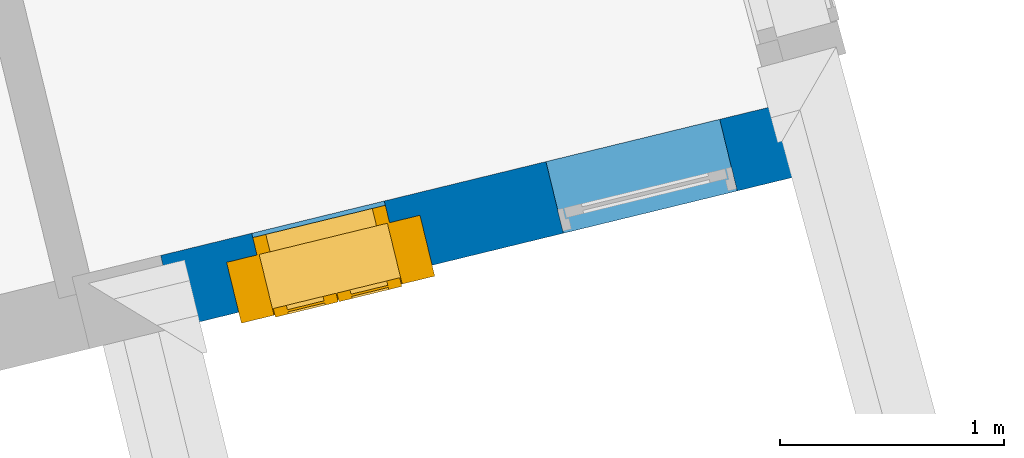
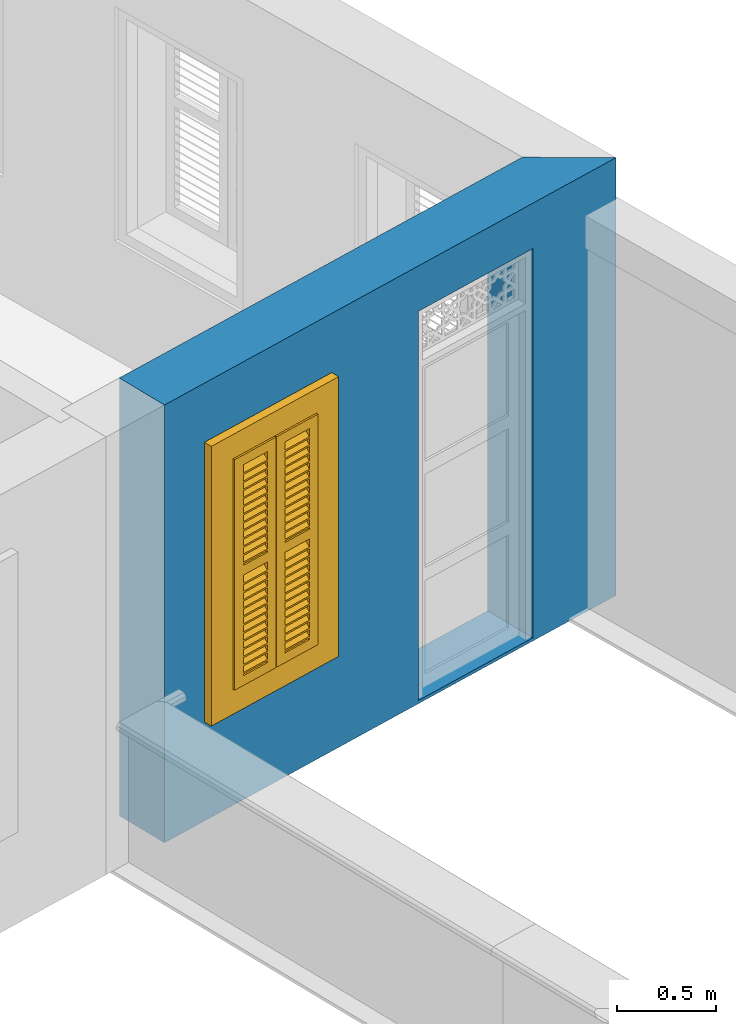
# One storey, part 6 of 9: 1 wall, 1 window, 2 openings.
"""IFC4 building model written with IfcOpenShell, lengths in metres."""

from ifc_helpers import new_model, si_unit, frame, origin, origin_with_axes, place, context, subcontext, project, spatial, polyline, outline, extrude, faceted_brep, source, transform, mapped, material, layer, layer_set, layer_usage, type_object, type_shapes, element, fill, save


model = new_model("IFC4")

# Units and contexts
model_context = context("Model", 3, world=origin_with_axes())
body_context = subcontext(model_context, "Body", "Model", "MODEL_VIEW")
ifc_project = project(units=[si_unit("PLANEANGLEUNIT", "RADIAN"), si_unit("MASSUNIT", "GRAM", prefix="KILO"), si_unit("FORCEUNIT", "NEWTON", prefix="KILO"), si_unit("LENGTHUNIT", "METRE"), si_unit("AREAUNIT", "SQUARE_METRE"), si_unit("VOLUMEUNIT", "CUBIC_METRE")], contexts=[model_context, model_context])

# Site, building, storey
site_placement = place(None, origin_with_axes())
site = spatial("IfcSite", under=ifc_project, at=site_placement, Name="Site plot-4", CompositionType="ELEMENT")
building_placement = place(None, origin_with_axes())
building = spatial("IfcBuilding", under=site, at=building_placement, Name="Building plot-4", CompositionType="ELEMENT")
storey_placement = place(None, frame((0.0, 0.0, 2.7), z_axis=(0.0, 0.0, 1.0), x_axis=(1.0, 0.0, 0.0)))
storey = spatial("IfcBuildingStorey", under=building, at=storey_placement, Name="plot-4 1", CompositionType="ELEMENT", Elevation=2.7)

# Wall, openings, window
ifc_material = material(Name="Masonry")
ifc_layer = layer(ifc_material, 0.33, ventilated=False)
ifc_layer_set = layer_set([ifc_layer], Name="exterior_0.08_0.25")
ifc_layer_usage = layer_usage(ifc_layer_set, "AXIS2", "POSITIVE", -0.25)
wall_type = type_object("IfcWallType", Name="exterior_0.08_0.25", PredefinedType="SOLIDWALL", material=ifc_layer_set)
wall_placement = place(storey_placement, frame((23.8026850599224, 15.7162538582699, 0.0), z_axis=(0.0, 0.0, 1.0), x_axis=(0.971605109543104, 0.236608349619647, 0.0)))
wall = element("IfcWall", 1, at=wall_placement, inside=storey, type_object=wall_type, material=ifc_layer_usage, Name="exterior", context=body_context, shape_type="SweptSolid", body=[
    extrude(outline(polyline([(-1.72737096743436e-16, 0.0800000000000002), (-7.61848032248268e-16, -0.25), (3.15434402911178, -0.250000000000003), (2.81586708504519, 0.0799999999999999), (-1.72737096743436e-16, 0.0800000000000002)])), origin_with_axes(), (0.0, 0.0, 1.0), 2.7),
])
opening_1_placement = place(wall_placement, frame((0.419480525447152, 0.0, 0.75)))
opening_1 = element("IfcOpeningElement", 2, at=opening_1_placement, cuts=wall, Name="My Opening", ObjectType="Opening", context=body_context, shape_type="SweptSolid", body=[
    extrude(outline(polyline([(0.0, -0.270000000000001), (0.610000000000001, -0.270000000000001), (0.609999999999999, 1.1), (-2.1094237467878e-15, 1.1), (0.0, -0.270000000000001)])), origin_with_axes(), (0.0, 0.0, 1.0), 1.445),
])
opening_2_placement = place(wall_placement, frame((1.77344157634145, 0.0, 0.02)))
element("IfcOpeningElement", 3, at=opening_2_placement, cuts=wall, Name="My Opening", ObjectType="Opening", context=body_context, shape_type="SweptSolid", body=[
    extrude(outline(polyline([(0.0, -0.270000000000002), (0.800000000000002, -0.27), (0.8, 1.1), (-1.55431223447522e-15, 1.1), (0.0, -0.270000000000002)])), origin_with_axes(), (0.0, 0.0, 1.0), 2.4),
])
window_type = type_object("IfcWindowType", Name="shuttered_shorter_narrow", PartitioningType="DOUBLE_PANEL_HORIZONTAL", PredefinedType="NOTDEFINED")
shared_shape = source(origin(), body_context, "Body", "Brep", [
    faceted_brep([(0.243, 0.0, 0.622), (0.074, 0.0, 0.622), (0.074, 0.0, 0.632), (0.243, 0.0, 0.632), (0.074, -0.04, 0.592), (0.243, -0.04, 0.592), (0.243, -0.04, 0.582), (0.074, -0.04, 0.582), (0.367, 0.0, 0.682), (0.536, 0.0, 0.682), (0.536, 0.0, 0.672), (0.367, 0.0, 0.672), (0.367, -0.04, 0.642), (0.536, -0.04, 0.642), (0.536, -0.04, 0.632), (0.367, -0.04, 0.632), (0.367, 0.0, 0.632), (0.536, 0.0, 0.632), (0.536, 0.0, 0.622), (0.367, 0.0, 0.622), (0.367, -0.04, 0.592), (0.536, -0.04, 0.592), (0.536, -0.04, 0.582), (0.367, -0.04, 0.582), (0.367, 0.0, 0.232), (0.536, 0.0, 0.232), (0.536, 0.0, 0.222), (0.367, 0.0, 0.222), (0.367, -0.04, 0.192), (0.536, -0.04, 0.192), (0.536, -0.04, 0.182), (0.367, -0.04, 0.182), (0.367, 0.0, 0.532), (0.536, 0.0, 0.532), (0.536, 0.0, 0.522), (0.367, 0.0, 0.522), (0.367, -0.04, 0.492), (0.536, -0.04, 0.492), (0.536, -0.04, 0.482), (0.367, -0.04, 0.482), (0.367, 0.0, 0.482), (0.536, 0.0, 0.482), (0.536, 0.0, 0.472), (0.367, 0.0, 0.472), (0.367, -0.04, 0.442), (0.536, -0.04, 0.442), (0.536, -0.04, 0.432), (0.367, -0.04, 0.432), (0.367, 0.0, 0.582), (0.536, 0.0, 0.582), (0.536, 0.0, 0.572), (0.367, 0.0, 0.572), (0.367, -0.04, 0.542), (0.536, -0.04, 0.542), (0.536, -0.04, 0.532), (0.367, -0.04, 0.532), (0.367, 0.0, 0.182), (0.536, 0.0, 0.182), (0.536, 0.0, 0.172), (0.367, 0.0, 0.172), (0.367, -0.04, 0.142), (0.536, -0.04, 0.142), (0.536, -0.04, 0.132), (0.367, -0.04, 0.132), (0.367, 0.0, 0.382), (0.536, 0.0, 0.382), (0.536, 0.0, 0.372), (0.367, 0.0, 0.372), (0.367, -0.04, 0.342), (0.536, -0.04, 0.342), (0.536, -0.04, 0.332), (0.367, -0.04, 0.332), (0.367, 0.0, 0.432), (0.536, 0.0, 0.432), (0.536, 0.0, 0.422), (0.367, 0.0, 0.422), (0.367, -0.04, 0.392), (0.536, -0.04, 0.392), (0.536, -0.04, 0.382), (0.367, -0.04, 0.382), (0.367, 0.0, 0.132), (0.536, 0.0, 0.132), (0.536, 0.0, 0.122), (0.367, 0.0, 0.122), (0.367, -0.04, 0.092), (0.536, -0.04, 0.092), (0.536, -0.04, 0.082), (0.367, -0.04, 0.082), (0.367, 0.0, 0.282), (0.536, 0.0, 0.282), (0.536, 0.0, 0.272), (0.367, 0.0, 0.272), (0.367, -0.04, 0.242), (0.536, -0.04, 0.242), (0.536, -0.04, 0.232), (0.367, -0.04, 0.232), (0.367, 0.0, 0.332), (0.536, 0.0, 0.332), (0.536, 0.0, 0.322), (0.367, 0.0, 0.322), (0.367, -0.04, 0.292), (0.536, -0.04, 0.292), (0.536, -0.04, 0.282), (0.367, -0.04, 0.282), (0.367, 0.0, 1.362667), (0.536, 0.0, 1.362667), (0.536, 0.0, 1.352667), (0.367, 0.0, 1.352667), (0.367, -0.04, 1.322667), (0.536, -0.04, 1.322667), (0.536, -0.04, 1.312667), (0.367, -0.04, 1.312667), (0.367, 0.0, 1.312667), (0.536, 0.0, 1.312667), (0.536, 0.0, 1.302667), (0.367, 0.0, 1.302667), (0.367, -0.04, 1.272667), (0.536, -0.04, 1.272667), (0.536, -0.04, 1.262667), (0.367, -0.04, 1.262667), (0.367, 0.0, 0.912667), (0.536, 0.0, 0.912667), (0.536, 0.0, 0.902667), (0.367, 0.0, 0.902667), (0.367, -0.04, 0.872667), (0.536, -0.04, 0.872667), (0.536, -0.04, 0.862667), (0.367, -0.04, 0.862667), (0.367, 0.0, 1.212667), (0.536, 0.0, 1.212667), (0.536, 0.0, 1.202667), (0.367, 0.0, 1.202667), (0.367, -0.04, 1.172667), (0.536, -0.04, 1.172667), (0.536, -0.04, 1.162667), (0.367, -0.04, 1.162667), (0.367, 0.0, 1.162667), (0.536, 0.0, 1.162667), (0.536, 0.0, 1.152667), (0.367, 0.0, 1.152667), (0.367, -0.04, 1.122667), (0.536, -0.04, 1.122667), (0.536, -0.04, 1.112667), (0.367, -0.04, 1.112667), (0.367, 0.0, 1.262667), (0.536, 0.0, 1.262667), (0.536, 0.0, 1.252667), (0.367, 0.0, 1.252667), (0.367, -0.04, 1.222667), (0.536, -0.04, 1.222667), (0.536, -0.04, 1.212667), (0.367, -0.04, 1.212667), (0.367, 0.0, 0.862667), (0.536, 0.0, 0.862667), (0.536, 0.0, 0.852667), (0.367, 0.0, 0.852667), (0.367, -0.04, 0.822667), (0.536, -0.04, 0.822667), (0.536, -0.04, 0.812667), (0.367, -0.04, 0.812667), (0.367, 0.0, 1.062667), (0.536, 0.0, 1.062667), (0.536, 0.0, 1.052667), (0.367, 0.0, 1.052667), (0.367, -0.04, 1.022667), (0.536, -0.04, 1.022667), (0.536, -0.04, 1.012667), (0.367, -0.04, 1.012667), (0.367, 0.0, 1.112667), (0.536, 0.0, 1.112667), (0.536, 0.0, 1.102667), (0.367, 0.0, 1.102667), (0.367, -0.04, 1.072667), (0.536, -0.04, 1.072667), (0.536, -0.04, 1.062667), (0.367, -0.04, 1.062667), (0.367, 0.0, 0.812667), (0.536, 0.0, 0.812667), (0.536, 0.0, 0.802667), (0.367, 0.0, 0.802667), (0.367, -0.04, 0.772667), (0.536, -0.04, 0.772667), (0.536, -0.04, 0.762667), (0.367, -0.04, 0.762667), (0.367, 0.0, 0.962667), (0.536, 0.0, 0.962667), (0.536, 0.0, 0.952667), (0.367, 0.0, 0.952667), (0.367, -0.04, 0.922667), (0.536, -0.04, 0.922667), (0.536, -0.04, 0.912667), (0.367, -0.04, 0.912667), (0.367, 0.0, 1.012667), (0.536, 0.0, 1.012667), (0.536, 0.0, 1.002667), (0.367, 0.0, 1.002667), (0.367, -0.04, 0.972667), (0.536, -0.04, 0.972667), (0.536, -0.04, 0.962667), (0.367, -0.04, 0.962667), (0.074, 0.0, 0.682), (0.243, 0.0, 0.682), (0.243, 0.0, 0.672), (0.074, 0.0, 0.672), (0.074, -0.04, 0.642), (0.243, -0.04, 0.642), (0.243, -0.04, 0.632), (0.074, -0.04, 0.632), (0.074, 0.0, 0.232), (0.243, 0.0, 0.232), (0.243, 0.0, 0.222), (0.074, 0.0, 0.222), (0.074, -0.04, 0.192), (0.243, -0.04, 0.192), (0.243, -0.04, 0.182), (0.074, -0.04, 0.182), (0.074, 0.0, 0.532), (0.243, 0.0, 0.532), (0.243, 0.0, 0.522), (0.074, 0.0, 0.522), (0.074, -0.04, 0.492), (0.243, -0.04, 0.492), (0.243, -0.04, 0.482), (0.074, -0.04, 0.482), (0.074, 0.0, 0.482), (0.243, 0.0, 0.482), (0.243, 0.0, 0.472), (0.074, 0.0, 0.472), (0.074, -0.04, 0.442), (0.243, -0.04, 0.442), (0.243, -0.04, 0.432), (0.074, -0.04, 0.432), (0.074, 0.0, 0.582), (0.243, 0.0, 0.582), (0.243, 0.0, 0.572), (0.074, 0.0, 0.572), (0.074, -0.04, 0.542), (0.243, -0.04, 0.542), (0.243, -0.04, 0.532), (0.074, -0.04, 0.532), (0.074, 0.0, 0.182), (0.243, 0.0, 0.182), (0.243, 0.0, 0.172), (0.074, 0.0, 0.172), (0.074, -0.04, 0.142), (0.243, -0.04, 0.142), (0.243, -0.04, 0.132), (0.074, -0.04, 0.132), (0.074, 0.0, 0.382), (0.243, 0.0, 0.382), (0.243, 0.0, 0.372), (0.074, 0.0, 0.372), (0.074, -0.04, 0.342), (0.243, -0.04, 0.342), (0.243, -0.04, 0.332), (0.074, -0.04, 0.332), (0.074, 0.0, 0.432), (0.243, 0.0, 0.432), (0.243, 0.0, 0.422), (0.074, 0.0, 0.422), (0.074, -0.04, 0.392), (0.243, -0.04, 0.392), (0.243, -0.04, 0.382), (0.074, -0.04, 0.382), (0.074, 0.0, 0.132), (0.243, 0.0, 0.132), (0.243, 0.0, 0.122), (0.074, 0.0, 0.122), (0.074, -0.04, 0.092), (0.243, -0.04, 0.092), (0.243, -0.04, 0.082), (0.074, -0.04, 0.082), (0.074, 0.0, 0.282), (0.243, 0.0, 0.282), (0.243, 0.0, 0.272), (0.074, 0.0, 0.272), (0.074, -0.04, 0.242), (0.243, -0.04, 0.242), (0.243, -0.04, 0.232), (0.074, -0.04, 0.232), (0.074, 0.0, 0.332), (0.243, 0.0, 0.332), (0.243, 0.0, 0.322), (0.074, 0.0, 0.322), (0.074, -0.04, 0.292), (0.243, -0.04, 0.292), (0.243, -0.04, 0.282), (0.074, -0.04, 0.282), (0.074, 0.0, 1.362667), (0.243, 0.0, 1.362667), (0.243, 0.0, 1.352667), (0.074, 0.0, 1.352667), (0.074, -0.04, 1.322667), (0.243, -0.04, 1.322667), (0.243, -0.04, 1.312667), (0.074, -0.04, 1.312667), (0.074, 0.0, 1.312667), (0.243, 0.0, 1.312667), (0.243, 0.0, 1.302667), (0.074, 0.0, 1.302667), (0.074, -0.04, 1.272667), (0.243, -0.04, 1.272667), (0.243, -0.04, 1.262667), (0.074, -0.04, 1.262667), (0.074, 0.0, 0.912667), (0.243, 0.0, 0.912667), (0.243, 0.0, 0.902667), (0.074, 0.0, 0.902667), (0.074, -0.04, 0.872667), (0.243, -0.04, 0.872667), (0.243, -0.04, 0.862667), (0.074, -0.04, 0.862667), (0.074, 0.0, 1.212667), (0.243, 0.0, 1.212667), (0.243, 0.0, 1.202667), (0.074, 0.0, 1.202667), (0.074, -0.04, 1.172667), (0.243, -0.04, 1.172667), (0.243, -0.04, 1.162667), (0.074, -0.04, 1.162667), (0.074, 0.0, 1.162667), (0.243, 0.0, 1.162667), (0.243, 0.0, 1.152667), (0.074, 0.0, 1.152667), (0.074, -0.04, 1.122667), (0.243, -0.04, 1.122667), (0.243, -0.04, 1.112667), (0.074, -0.04, 1.112667), (0.074, 0.0, 1.262667), (0.243, 0.0, 1.262667), (0.243, 0.0, 1.252667), (0.074, 0.0, 1.252667), (0.074, -0.04, 1.222667), (0.243, -0.04, 1.222667), (0.243, -0.04, 1.212667), (0.074, -0.04, 1.212667), (0.074, 0.0, 0.862667), (0.243, 0.0, 0.862667), (0.243, 0.0, 0.852667), (0.074, 0.0, 0.852667), (0.074, -0.04, 0.822667), (0.243, -0.04, 0.822667), (0.243, -0.04, 0.812667), (0.074, -0.04, 0.812667), (0.074, 0.0, 1.062667), (0.243, 0.0, 1.062667), (0.243, 0.0, 1.052667), (0.074, 0.0, 1.052667), (0.074, -0.04, 1.022667), (0.243, -0.04, 1.022667), (0.243, -0.04, 1.012667), (0.074, -0.04, 1.012667), (0.074, 0.0, 1.112667), (0.243, 0.0, 1.112667), (0.243, 0.0, 1.102667), (0.074, 0.0, 1.102667), (0.074, -0.04, 1.072667), (0.243, -0.04, 1.072667), (0.243, -0.04, 1.062667), (0.074, -0.04, 1.062667), (0.074, 0.0, 0.812667), (0.243, 0.0, 0.812667), (0.243, 0.0, 0.802667), (0.074, 0.0, 0.802667), (0.074, -0.04, 0.772667), (0.243, -0.04, 0.772667), (0.243, -0.04, 0.762667), (0.074, -0.04, 0.762667), (0.074, 0.0, 0.962667), (0.243, 0.0, 0.962667), (0.243, 0.0, 0.952667), (0.074, 0.0, 0.952667), (0.074, -0.04, 0.922667), (0.243, -0.04, 0.922667), (0.243, -0.04, 0.912667), (0.074, -0.04, 0.912667), (0.074, 0.0, 1.012667), (0.243, 0.0, 1.012667), (0.243, 0.0, 1.002667), (0.074, 0.0, 1.002667), (0.074, -0.04, 0.972667), (0.243, -0.04, 0.972667), (0.243, -0.04, 0.962667), (0.074, -0.04, 0.962667), (0.367, -0.04, 0.072), (0.307, -0.04, 0.012), (0.596, -0.04, 0.012), (0.536, -0.04, 0.072), (0.307, -0.04, 0.692667), (0.367, -0.04, 0.692667), (0.307, 0.0, 0.012), (0.596, 0.0, 0.012), (0.536, -0.04, 0.692667), (0.596, -0.04, 0.692667), (0.536, 0.0, 0.072), (0.367, 0.0, 0.072), (0.307, 0.0, 0.692667), (0.367, 0.0, 0.692667), (0.367, -0.04, 0.752666), (0.307, -0.04, 0.752666), (0.596, 0.0, 0.692667), (0.536, 0.0, 0.692667), (0.536, -0.04, 0.752666), (0.596, -0.04, 0.752666), (0.307, 0.0, 0.752666), (0.307, -0.04, 1.433333), (0.367, -0.04, 1.373333), (0.596, 0.0, 0.752666), (0.536, -0.04, 1.373333), (0.596, -0.04, 1.433333), (0.307, 0.0, 1.433333), (0.367, 0.0, 0.752666), (0.536, 0.0, 0.752666), (0.367, 0.0, 1.373333), (0.596, 0.0, 1.433333), (0.536, 0.0, 1.373333), (0.074, -0.04, 0.072), (0.014, -0.04, 0.012), (0.303, -0.04, 0.012), (0.243, -0.04, 0.072), (0.014, -0.04, 0.692667), (0.074, -0.04, 0.692667), (0.014, 0.0, 0.012), (0.303, 0.0, 0.012), (0.243, -0.04, 0.692667), (0.303, -0.04, 0.692667), (0.243, 0.0, 0.072), (0.074, 0.0, 0.072), (0.014, 0.0, 0.692667), (0.074, 0.0, 0.692667), (0.074, -0.04, 0.752666), (0.014, -0.04, 0.752666), (0.303, 0.0, 0.692667), (0.243, 0.0, 0.692667), (0.243, -0.04, 0.752666), (0.303, -0.04, 0.752666), (0.014, 0.0, 0.752666), (0.014, -0.04, 1.433333), (0.074, -0.04, 1.373333), (0.303, 0.0, 0.752666), (0.243, -0.04, 1.373333), (0.303, -0.04, 1.433333), (0.014, 0.0, 1.433333), (0.074, 0.0, 0.752666), (0.243, 0.0, 0.752666), (0.074, 0.0, 1.373333), (0.303, 0.0, 1.433333), (0.243, 0.0, 1.373333), (0.0, 0.33, 1.445), (0.61, 0.33, 1.445), (0.55, 0.33, 1.385), (0.06, 0.33, 1.385), (0.61, 0.25, 1.445), (0.0, 0.25, 1.445), (0.61, 0.25, 1.445), (0.55, 0.33, 0.06), (0.61, 0.33, 0.0), (0.55, 0.25, 1.385), (0.06, 0.25, 1.385), (0.0, 0.33, 0.0), (0.06, 0.33, 0.06), (0.0, 0.25, 0.0), (0.61, 0.25, 0.0), (0.55, 0.25, 0.06), (0.06, 0.25, 0.06), (0.75, 0.25, 1.585), (-0.14, 0.25, 1.585), (-0.14, -0.03, 1.585), (0.75, -0.03, 1.585), (0.6, -0.03, 1.435), (0.01, -0.03, 1.435), (0.01, 0.25, 1.435), (0.6, 0.25, 1.435), (0.6, 0.25, 0.01), (0.6, -0.03, 0.01), (0.75, -0.03, -0.14), (0.75, 0.25, -0.14), (0.01, -0.03, 0.01), (0.01, 0.25, 0.01), (-0.14, -0.03, -0.14), (-0.14, 0.25, -0.14)], [[[0, 1, 2, 3]], [[4, 5, 3, 2]], [[5, 6, 0, 3]], [[1, 0, 6, 7]], [[2, 1, 7, 4]], [[5, 4, 7, 6]], [[8, 9, 10, 11]], [[12, 13, 9, 8]], [[13, 14, 10, 9]], [[14, 15, 11, 10]], [[15, 12, 8, 11]], [[13, 12, 15, 14]], [[16, 17, 18, 19]], [[20, 21, 17, 16]], [[21, 22, 18, 17]], [[22, 23, 19, 18]], [[23, 20, 16, 19]], [[21, 20, 23, 22]], [[24, 25, 26, 27]], [[28, 29, 25, 24]], [[29, 30, 26, 25]], [[30, 31, 27, 26]], [[31, 28, 24, 27]], [[29, 28, 31, 30]], [[32, 33, 34, 35]], [[36, 37, 33, 32]], [[37, 38, 34, 33]], [[38, 39, 35, 34]], [[39, 36, 32, 35]], [[37, 36, 39, 38]], [[40, 41, 42, 43]], [[44, 45, 41, 40]], [[45, 46, 42, 41]], [[46, 47, 43, 42]], [[47, 44, 40, 43]], [[45, 44, 47, 46]], [[48, 49, 50, 51]], [[52, 53, 49, 48]], [[53, 54, 50, 49]], [[54, 55, 51, 50]], [[55, 52, 48, 51]], [[53, 52, 55, 54]], [[56, 57, 58, 59]], [[60, 61, 57, 56]], [[61, 62, 58, 57]], [[62, 63, 59, 58]], [[63, 60, 56, 59]], [[61, 60, 63, 62]], [[64, 65, 66, 67]], [[68, 69, 65, 64]], [[69, 70, 66, 65]], [[70, 71, 67, 66]], [[71, 68, 64, 67]], [[69, 68, 71, 70]], [[72, 73, 74, 75]], [[76, 77, 73, 72]], [[77, 78, 74, 73]], [[78, 79, 75, 74]], [[79, 76, 72, 75]], [[77, 76, 79, 78]], [[80, 81, 82, 83]], [[84, 85, 81, 80]], [[85, 86, 82, 81]], [[86, 87, 83, 82]], [[87, 84, 80, 83]], [[85, 84, 87, 86]], [[88, 89, 90, 91]], [[92, 93, 89, 88]], [[93, 94, 90, 89]], [[94, 95, 91, 90]], [[95, 92, 88, 91]], [[93, 92, 95, 94]], [[96, 97, 98, 99]], [[100, 101, 97, 96]], [[101, 102, 98, 97]], [[102, 103, 99, 98]], [[103, 100, 96, 99]], [[101, 100, 103, 102]], [[104, 105, 106, 107]], [[108, 109, 105, 104]], [[109, 110, 106, 105]], [[110, 111, 107, 106]], [[111, 108, 104, 107]], [[109, 108, 111, 110]], [[112, 113, 114, 115]], [[116, 117, 113, 112]], [[117, 118, 114, 113]], [[118, 119, 115, 114]], [[119, 116, 112, 115]], [[117, 116, 119, 118]], [[120, 121, 122, 123]], [[124, 125, 121, 120]], [[125, 126, 122, 121]], [[126, 127, 123, 122]], [[127, 124, 120, 123]], [[125, 124, 127, 126]], [[128, 129, 130, 131]], [[132, 133, 129, 128]], [[133, 134, 130, 129]], [[134, 135, 131, 130]], [[135, 132, 128, 131]], [[133, 132, 135, 134]], [[136, 137, 138, 139]], [[140, 141, 137, 136]], [[141, 142, 138, 137]], [[142, 143, 139, 138]], [[139, 143, 140, 136]], [[141, 140, 143, 142]], [[144, 145, 146, 147]], [[148, 149, 145, 144]], [[149, 150, 146, 145]], [[150, 151, 147, 146]], [[151, 148, 144, 147]], [[149, 148, 151, 150]], [[152, 153, 154, 155]], [[156, 157, 153, 152]], [[157, 158, 154, 153]], [[158, 159, 155, 154]], [[159, 156, 152, 155]], [[157, 156, 159, 158]], [[160, 161, 162, 163]], [[164, 165, 161, 160]], [[165, 166, 162, 161]], [[166, 167, 163, 162]], [[167, 164, 160, 163]], [[165, 164, 167, 166]], [[168, 169, 170, 171]], [[172, 173, 169, 168]], [[173, 174, 170, 169]], [[174, 175, 171, 170]], [[175, 172, 168, 171]], [[173, 172, 175, 174]], [[176, 177, 178, 179]], [[180, 181, 177, 176]], [[181, 182, 178, 177]], [[182, 183, 179, 178]], [[183, 180, 176, 179]], [[181, 180, 183, 182]], [[184, 185, 186, 187]], [[188, 189, 185, 184]], [[189, 190, 186, 185]], [[190, 191, 187, 186]], [[191, 188, 184, 187]], [[189, 188, 191, 190]], [[192, 193, 194, 195]], [[196, 197, 193, 192]], [[197, 198, 194, 193]], [[198, 199, 195, 194]], [[199, 196, 192, 195]], [[197, 196, 199, 198]], [[200, 201, 202, 203]], [[204, 205, 201, 200]], [[205, 206, 202, 201]], [[206, 207, 203, 202]], [[207, 204, 200, 203]], [[205, 204, 207, 206]], [[208, 209, 210, 211]], [[212, 213, 209, 208]], [[213, 214, 210, 209]], [[214, 215, 211, 210]], [[215, 212, 208, 211]], [[213, 212, 215, 214]], [[216, 217, 218, 219]], [[220, 221, 217, 216]], [[221, 222, 218, 217]], [[222, 223, 219, 218]], [[223, 220, 216, 219]], [[221, 220, 223, 222]], [[224, 225, 226, 227]], [[228, 229, 225, 224]], [[229, 230, 226, 225]], [[230, 231, 227, 226]], [[231, 228, 224, 227]], [[229, 228, 231, 230]], [[232, 233, 234, 235]], [[236, 237, 233, 232]], [[237, 238, 234, 233]], [[238, 239, 235, 234]], [[239, 236, 232, 235]], [[237, 236, 239, 238]], [[240, 241, 242, 243]], [[244, 245, 241, 240]], [[245, 246, 242, 241]], [[246, 247, 243, 242]], [[247, 244, 240, 243]], [[245, 244, 247, 246]], [[248, 249, 250, 251]], [[252, 253, 249, 248]], [[253, 254, 250, 249]], [[254, 255, 251, 250]], [[255, 252, 248, 251]], [[253, 252, 255, 254]], [[256, 257, 258, 259]], [[260, 261, 257, 256]], [[261, 262, 258, 257]], [[262, 263, 259, 258]], [[263, 260, 256, 259]], [[261, 260, 263, 262]], [[264, 265, 266, 267]], [[268, 269, 265, 264]], [[269, 270, 266, 265]], [[270, 271, 267, 266]], [[271, 268, 264, 267]], [[269, 268, 271, 270]], [[272, 273, 274, 275]], [[276, 277, 273, 272]], [[277, 278, 274, 273]], [[278, 279, 275, 274]], [[279, 276, 272, 275]], [[277, 276, 279, 278]], [[280, 281, 282, 283]], [[284, 285, 281, 280]], [[285, 286, 282, 281]], [[286, 287, 283, 282]], [[287, 284, 280, 283]], [[285, 284, 287, 286]], [[288, 289, 290, 291]], [[292, 293, 289, 288]], [[293, 294, 290, 289]], [[294, 295, 291, 290]], [[295, 292, 288, 291]], [[293, 292, 295, 294]], [[296, 297, 298, 299]], [[300, 301, 297, 296]], [[301, 302, 298, 297]], [[302, 303, 299, 298]], [[303, 300, 296, 299]], [[301, 300, 303, 302]], [[304, 305, 306, 307]], [[308, 309, 305, 304]], [[309, 310, 306, 305]], [[310, 311, 307, 306]], [[311, 308, 304, 307]], [[309, 308, 311, 310]], [[312, 313, 314, 315]], [[316, 317, 313, 312]], [[317, 318, 314, 313]], [[318, 319, 315, 314]], [[319, 316, 312, 315]], [[317, 316, 319, 318]], [[320, 321, 322, 323]], [[324, 325, 321, 320]], [[325, 326, 322, 321]], [[326, 327, 323, 322]], [[327, 324, 320, 323]], [[325, 324, 327, 326]], [[328, 329, 330, 331]], [[332, 333, 329, 328]], [[333, 334, 330, 329]], [[334, 335, 331, 330]], [[335, 332, 328, 331]], [[333, 332, 335, 334]], [[336, 337, 338, 339]], [[340, 341, 337, 336]], [[341, 342, 338, 337]], [[342, 343, 339, 338]], [[343, 340, 336, 339]], [[341, 340, 343, 342]], [[344, 345, 346, 347]], [[348, 349, 345, 344]], [[349, 350, 346, 345]], [[350, 351, 347, 346]], [[351, 348, 344, 347]], [[349, 348, 351, 350]], [[352, 353, 354, 355]], [[356, 357, 353, 352]], [[357, 358, 354, 353]], [[358, 359, 355, 354]], [[359, 356, 352, 355]], [[357, 356, 359, 358]], [[360, 361, 362, 363]], [[364, 365, 361, 360]], [[365, 366, 362, 361]], [[366, 367, 363, 362]], [[367, 364, 360, 363]], [[365, 364, 367, 366]], [[368, 369, 370, 371]], [[372, 373, 369, 368]], [[373, 374, 370, 369]], [[374, 375, 371, 370]], [[375, 372, 368, 371]], [[373, 372, 375, 374]], [[376, 377, 378, 379]], [[380, 381, 377, 376]], [[381, 382, 378, 377]], [[382, 383, 379, 378]], [[383, 380, 376, 379]], [[381, 380, 383, 382]], [[384, 385, 386, 387]], [[388, 385, 384, 389]], [[390, 391, 386, 385]], [[392, 387, 386, 393]], [[384, 387, 394, 395]], [[390, 385, 388, 396]], [[389, 384, 395, 397]], [[389, 398, 399, 388]], [[390, 395, 394, 391]], [[400, 393, 386, 391]], [[387, 392, 401, 394]], [[402, 392, 393, 403]], [[396, 388, 399, 404]], [[390, 396, 397, 395]], [[392, 389, 397, 401]], [[398, 389, 392, 402]], [[405, 399, 398, 406]], [[394, 401, 400, 391]], [[407, 403, 393, 400]], [[408, 402, 403, 409]], [[404, 399, 405, 410]], [[411, 397, 396, 404]], [[397, 411, 412, 401]], [[398, 402, 412, 411]], [[406, 398, 411, 413]], [[405, 406, 408, 409]], [[401, 412, 407, 400]], [[414, 409, 403, 407]], [[402, 408, 415, 412]], [[405, 409, 414, 410]], [[404, 410, 413, 411]], [[408, 406, 413, 415]], [[412, 415, 414, 407]], [[413, 410, 414, 415]], [[416, 417, 418, 419]], [[420, 417, 416, 421]], [[422, 423, 418, 417]], [[424, 419, 418, 425]], [[416, 419, 426, 427]], [[422, 417, 420, 428]], [[421, 416, 427, 429]], [[421, 430, 431, 420]], [[422, 427, 426, 423]], [[432, 425, 418, 423]], [[419, 424, 433, 426]], [[434, 424, 425, 435]], [[428, 420, 431, 436]], [[422, 428, 429, 427]], [[424, 421, 429, 433]], [[430, 421, 424, 434]], [[437, 431, 430, 438]], [[426, 433, 432, 423]], [[439, 435, 425, 432]], [[440, 434, 435, 441]], [[436, 431, 437, 442]], [[443, 429, 428, 436]], [[429, 443, 444, 433]], [[430, 434, 444, 443]], [[438, 430, 443, 445]], [[437, 438, 440, 441]], [[433, 444, 439, 432]], [[446, 441, 435, 439]], [[434, 440, 447, 444]], [[437, 441, 446, 442]], [[436, 442, 445, 443]], [[440, 438, 445, 447]], [[444, 447, 446, 439]], [[445, 442, 446, 447]], [[448, 449, 450, 451]], [[452, 449, 448]], [[448, 453, 454]], [[448, 454, 452]], [[455, 450, 449, 456]], [[451, 450, 457, 458]], [[459, 448, 451, 460]], [[448, 459, 461, 453]], [[454, 453, 458, 457]], [[462, 452, 454]], [[454, 457, 463]], [[454, 463, 462]], [[456, 449, 452, 462]], [[450, 455, 463, 457]], [[456, 459, 460, 455]], [[460, 451, 458, 464]], [[459, 456, 462, 461]], [[464, 458, 453, 461]], [[461, 462, 463, 464]], [[455, 460, 464, 463]], [[465, 466, 467, 468]], [[469, 470, 471, 472]], [[473, 474, 469, 472]], [[465, 468, 475, 476]], [[470, 477, 478, 471]], [[474, 473, 478, 477]], [[474, 477, 479, 475]], [[470, 467, 479, 477]], [[470, 469, 468, 467]], [[474, 475, 468, 469]], [[471, 478, 480, 466]], [[473, 472, 465, 476]], [[473, 476, 480, 478]], [[466, 465, 472, 471]], [[480, 476, 475, 479]], [[480, 479, 467, 466]]]),
])
type_shapes(window_type, [shared_shape])
window_placement = place(storey_placement, frame((24.274138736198, 15.5531730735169, 0.75), z_axis=(0.0, 0.0, 1.0), x_axis=(0.592679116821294, 0.144331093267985, 0.0)))
window = element("IfcWindow", 4, at=window_placement, inside=storey, type_object=window_type, Name="bedroom sahn window", OverallHeight=1.445, OverallWidth=0.61, context=body_context, shape_type="MappedRepresentation", body=[
    mapped(shared_shape, transform((0.0, 0.0, 0.0), scale=1.0)),
])
fill(opening_1, window)

save(model, "model.ifc")
